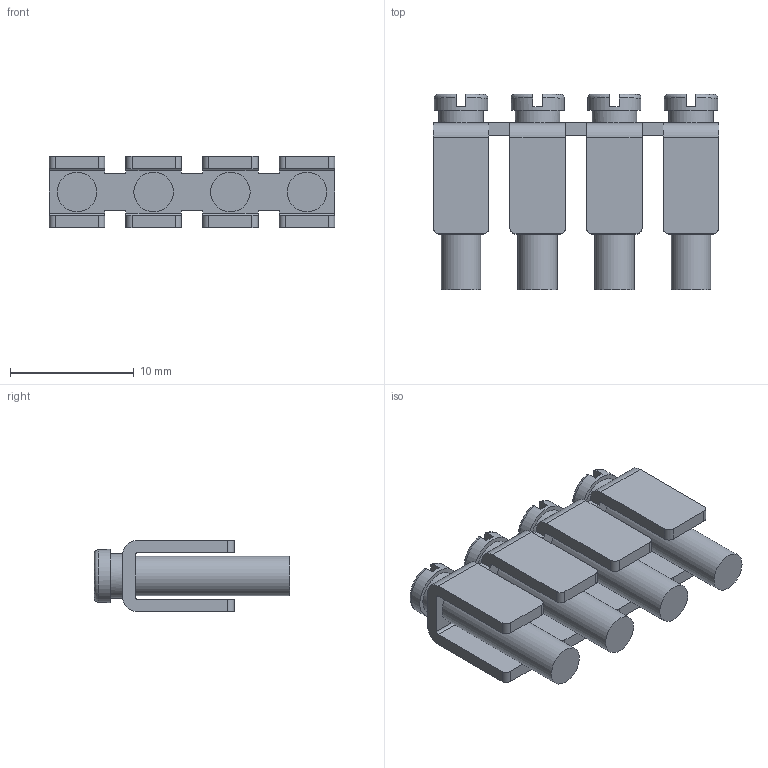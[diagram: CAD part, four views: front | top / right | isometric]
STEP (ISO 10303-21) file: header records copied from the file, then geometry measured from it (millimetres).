
FILE_DESCRIPTION(('Open CASCADE Model'),'2;1');
FILE_NAME('Open CASCADE Shape Model','2023-12-20T15:12:25',('Author'),( 'Open CASCADE'),'Open CASCADE STEP processor 6.5','Open CASCADE 6.5' ,'Unknown');
FILE_SCHEMA(('AUTOMOTIVE_DESIGN { 1 0 10303 214 1 1 1 1 }'));
Length unit declared in the file: millimetre
Products named in the file (167): CADSOFTTOOLS 4; CADSOFTTOOLS 4.1; CADSOFTTOOLS 4.2; CADSOFTTOOLS 4.3; CADSOFTTOOLS 4.4; CADSOFTTOOLS 4.5; CADSOFTTOOLS 4.6; CADSOFTTOOLS 4.7; CADSOFTTOOLS 4.8; CADSOFTTOOLS 4.9; CADSOFTTOOLS 4.10; CADSOFTTOOLS 4.11; CADSOFTTOOLS 4.12; CADSOFTTOOLS 4.13; CADSOFTTOOLS 4.14; CADSOFTTOOLS 4.15; CADSOFTTOOLS 4.16; CADSOFTTOOLS 4.17; CADSOFTTOOLS 4.18; CADSOFTTOOLS 4.19; CADSOFTTOOLS 4.20; CADSOFTTOOLS 4.21; CADSOFTTOOLS 4.22; CADSOFTTOOLS 4.23; CADSOFTTOOLS 4.24; CADSOFTTOOLS 4.25; CADSOFTTOOLS 4.26; CADSOFTTOOLS 4.27; CADSOFTTOOLS 4.28; CADSOFTTOOLS 4.29; CADSOFTTOOLS 4.30; CADSOFTTOOLS 4.31; CADSOFTTOOLS 4.32; CADSOFTTOOLS 4.33; CADSOFTTOOLS 4.34; CADSOFTTOOLS 4.35; CADSOFTTOOLS 4.36; CADSOFTTOOLS 4.37; CADSOFTTOOLS 4.38; CADSOFTTOOLS 4.39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
Assembly tree (166 placements, depth 2):
  CADSOFTTOOLS 4
    CADSOFTTOOLS 4.1
    CADSOFTTOOLS 4.2
    CADSOFTTOOLS 4.3
    CADSOFTTOOLS 4.4
    CADSOFTTOOLS 4.5
    CADSOFTTOOLS 4.6
    CADSOFTTOOLS 4.7
    CADSOFTTOOLS 4.8
    CADSOFTTOOLS 4.9
    CADSOFTTOOLS 4.10
    CADSOFTTOOLS 4.11
    CADSOFTTOOLS 4.12
    CADSOFTTOOLS 4.13
    CADSOFTTOOLS 4.14
    CADSOFTTOOLS 4.15
    CADSOFTTOOLS 4.16
    CADSOFTTOOLS 4.17
    CADSOFTTOOLS 4.18
    CADSOFTTOOLS 4.19
    CADSOFTTOOLS 4.20
    CADSOFTTOOLS 4.21
    CADSOFTTOOLS 4.22
    CADSOFTTOOLS 4.23
    CADSOFTTOOLS 4.24
    CADSOFTTOOLS 4.25
    CADSOFTTOOLS 4.26
    CADSOFTTOOLS 4.27
    CADSOFTTOOLS 4.28
    CADSOFTTOOLS 4.29
    CADSOFTTOOLS 4.30
    CADSOFTTOOLS 4.31
    CADSOFTTOOLS 4.32
    CADSOFTTOOLS 4.33
    CADSOFTTOOLS 4.34
    CADSOFTTOOLS 4.35
    CADSOFTTOOLS 4.36
    CADSOFTTOOLS 4.37
    CADSOFTTOOLS 4.38
    CADSOFTTOOLS 4.39
    CADSOFTTOOLS 4.40
    CADSOFTTOOLS 4.41
    CADSOFTTOOLS 4.42
    CADSOFTTOOLS 4.43
    CADSOFTTOOLS 4.44
    CADSOFTTOOLS 4.45
    CADSOFTTOOLS 4.46
    CADSOFTTOOLS 4.47
    CADSOFTTOOLS 4.48
    CADSOFTTOOLS 4.49
    CADSOFTTOOLS 4.50
    CADSOFTTOOLS 4.51
    CADSOFTTOOLS 4.52
    CADSOFTTOOLS 4.53
    CADSOFTTOOLS 4.54
    CADSOFTTOOLS 4.55
    CADSOFTTOOLS 4.56
    CADSOFTTOOLS 4.57
    CADSOFTTOOLS 4.58
    CADSOFTTOOLS 4.59
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Bounding box: 23.1 x 15.8 x 5.8 mm (x, y, z)
Surface area: 1742.1 mm2 (no closed solid volume)
Topology: 0 solids, 166 shells, 166 faces, 886 edges, 870 vertices
Faces by surface type: plane 90, cylinder 56, bspline 12, torus 8
Full cylindrical faces by diameter (mm): 3.2 x8, 3.6 x4, 4.3 x4
Entity records: 37127 total; most frequent: CARTESIAN_POINT 23113, DIRECTION 2094, ORIENTED_EDGE 902, PCURVE 902, DEFINITIONAL_REPRESENTATION 902, EDGE_CURVE 886, VERTEX_POINT 870, SURFACE_CURVE 870
